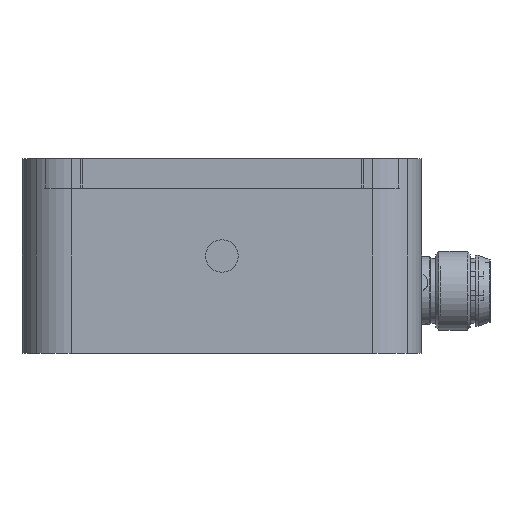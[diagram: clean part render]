
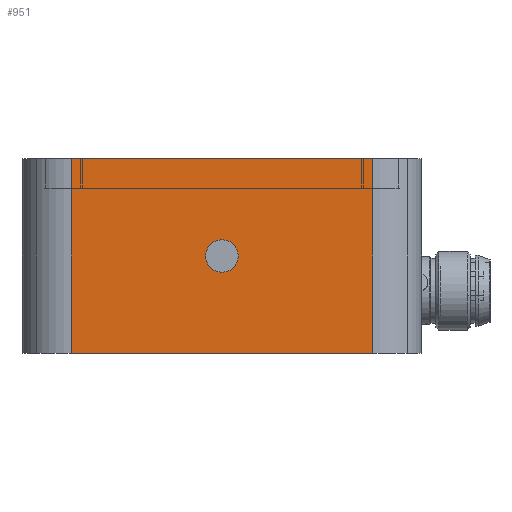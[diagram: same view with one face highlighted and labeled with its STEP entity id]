
A CAD part, left-side view. The second image highlights one B-rep face of the part: STEP entity #951.
In plain terms, the highlighted planar face has unit normal (-1, 0, 0).
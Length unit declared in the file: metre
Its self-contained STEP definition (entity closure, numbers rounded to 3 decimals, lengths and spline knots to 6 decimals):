
#951=ADVANCED_FACE('164:2650',(#2169,#2170),#2171,.T.);
#2169=FACE_OUTER_BOUND('',#3632,.T.);
#2170=FACE_BOUND('',#3633,.T.);
#2171=PLANE('',#3634);
#3632=EDGE_LOOP('',(#6330,#6331,#6332,#6333));
#3633=EDGE_LOOP('',(#6334,#6335));
#3634=AXIS2_PLACEMENT_3D('',#6336,#6337,#6338);
#6330=ORIENTED_EDGE('',*,*,#8647,.F.);
#6331=ORIENTED_EDGE('',*,*,#9151,.T.);
#6332=ORIENTED_EDGE('',*,*,#9102,.F.);
#6333=ORIENTED_EDGE('',*,*,#9087,.T.);
#6334=ORIENTED_EDGE('',*,*,#8583,.T.);
#6335=ORIENTED_EDGE('',*,*,#9149,.T.);
#6336=CARTESIAN_POINT('',(-0.0921,0.0,0.0));
#6337=DIRECTION('',(-1.0,0.0,0.0));
#6338=DIRECTION('',(0.0,-1.0,0.0));
#8583=EDGE_CURVE('164:3544',#10268,#10272,#10274,.T.);
#8647=EDGE_CURVE('164:2947',#10387,#10389,#10390,.T.);
#9087=EDGE_CURVE('164:2959',#10996,#10389,#10997,.F.);
#9102=EDGE_CURVE('164:3211',#10996,#11018,#11019,.T.);
#9149=EDGE_CURVE('',#10272,#10268,#11069,.T.);
#9151=EDGE_CURVE('164:3547',#10387,#11018,#11071,.T.);
#10268=VERTEX_POINT('',#12548);
#10272=VERTEX_POINT('',#12553);
#10274=CIRCLE('',#12556,0.00165);
#10387=VERTEX_POINT('',#12694);
#10389=VERTEX_POINT('',#12696);
#10390=LINE('',#12697,#12698);
#10996=VERTEX_POINT('',#13523);
#10997=LINE('',#13524,#13525);
#11018=VERTEX_POINT('',#13552);
#11019=LINE('',#13553,#13554);
#11069=CIRCLE('',#13612,0.00165);
#11071=LINE('',#13614,#13615);
#12548=CARTESIAN_POINT('',(-0.0921,0.00165,0.0099));
#12553=CARTESIAN_POINT('',(-0.0921,-0.00165,0.0099));
#12556=AXIS2_PLACEMENT_3D('',#15754,#15755,#15756);
#12694=CARTESIAN_POINT('',(-0.0921,0.0153,0.0));
#12696=CARTESIAN_POINT('',(-0.0921,0.0153,0.0198));
#12697=CARTESIAN_POINT('',(-0.0921,0.0153,0.0));
#12698=VECTOR('',#15857,1.0);
#13523=CARTESIAN_POINT('',(-0.0921,-0.0153,0.0198));
#13524=CARTESIAN_POINT('',(-0.0921,0.0,0.0198));
#13525=VECTOR('',#16563,1.0);
#13552=CARTESIAN_POINT('',(-0.0921,-0.0153,0.0));
#13553=CARTESIAN_POINT('',(-0.0921,-0.0153,0.0));
#13554=VECTOR('',#16591,1.0);
#13612=AXIS2_PLACEMENT_3D('',#16639,#16640,#16641);
#13614=CARTESIAN_POINT('',(-0.0921,0.0,0.0));
#13615=VECTOR('',#16642,1.0);
#15754=CARTESIAN_POINT('',(-0.0921,0.0,0.0099));
#15755=DIRECTION('',(1.0,0.0,0.0));
#15756=DIRECTION('',(0.0,1.0,0.0));
#15857=DIRECTION('',(0.0,0.0,1.0));
#16563=DIRECTION('',(-0.0,-1.0,-0.0));
#16591=DIRECTION('',(-0.0,-0.0,-1.0));
#16639=CARTESIAN_POINT('',(-0.0921,0.0,0.0099));
#16640=DIRECTION('',(1.0,0.0,0.0));
#16641=DIRECTION('',(0.0,1.0,0.0));
#16642=DIRECTION('',(-0.0,-1.0,-0.0));
